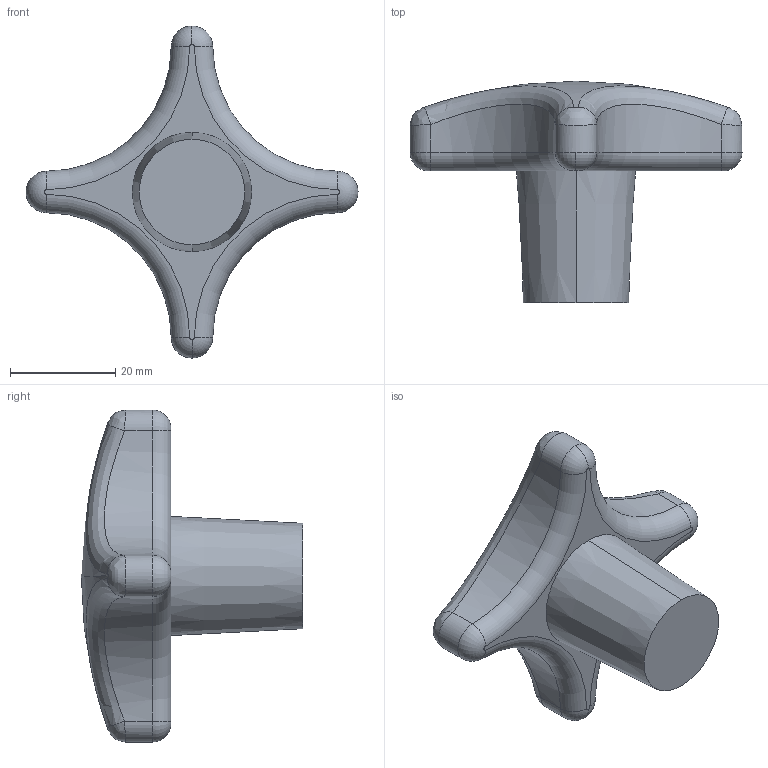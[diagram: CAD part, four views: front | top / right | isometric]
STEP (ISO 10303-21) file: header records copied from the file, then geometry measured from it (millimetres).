
FILE_DESCRIPTION (( 'STEP AP203' ), '1' );
FILE_NAME ('7000.W063.step', '2010-01-29T17:34:24', ( 'Wixroyd' ), ( 'Wixroyd' ), 'SwSTEP 2.0', 'SolidWorks 2009', '' );
FILE_SCHEMA (( 'CONFIG_CONTROL_DESIGN' ));
Length unit declared in the file: millimetre
Products named in the file (1): 7000.W063
Bounding box: 63 x 42 x 63 mm (x, y, z)
Volume: 29138.9 mm3; surface area: 6583.3 mm2
Topology: 1 solids, 1 shells, 33 faces, 74 edges, 44 vertices
Faces by surface type: torus 10, cylinder 9, bspline 8, cone 2, sphere 2, plane 2
Entity records: 6462 total; most frequent: CARTESIAN_POINT 5675, DIRECTION 151, ORIENTED_EDGE 148, EDGE_CURVE 74, AXIS2_PLACEMENT_3D 70, CIRCLE 44, VERTEX_POINT 44, EDGE_LOOP 34
